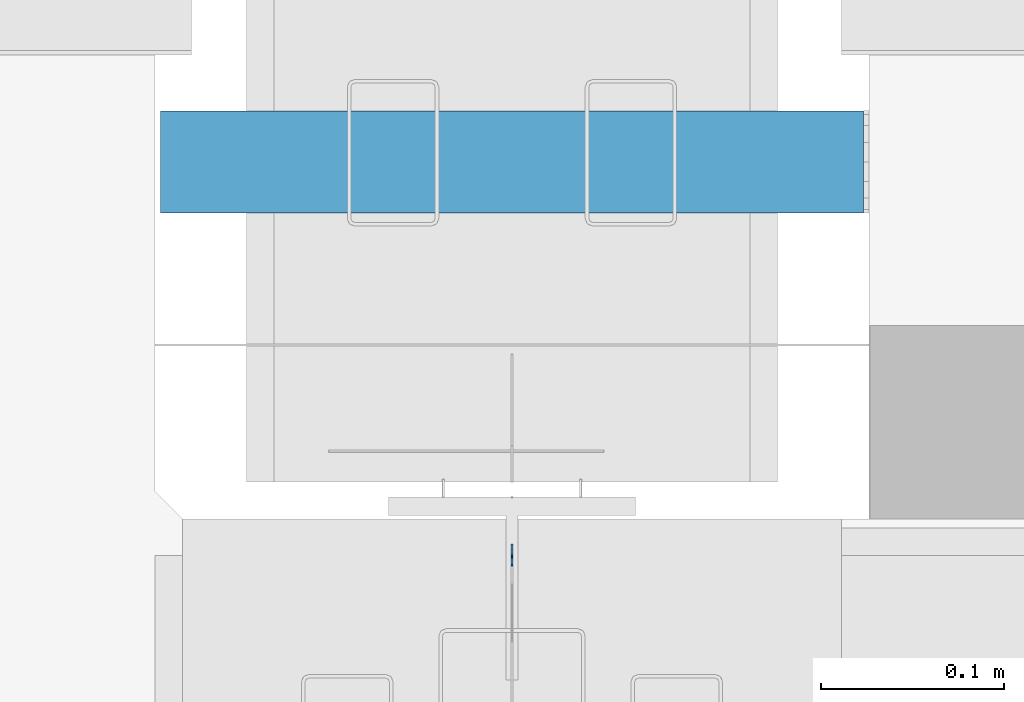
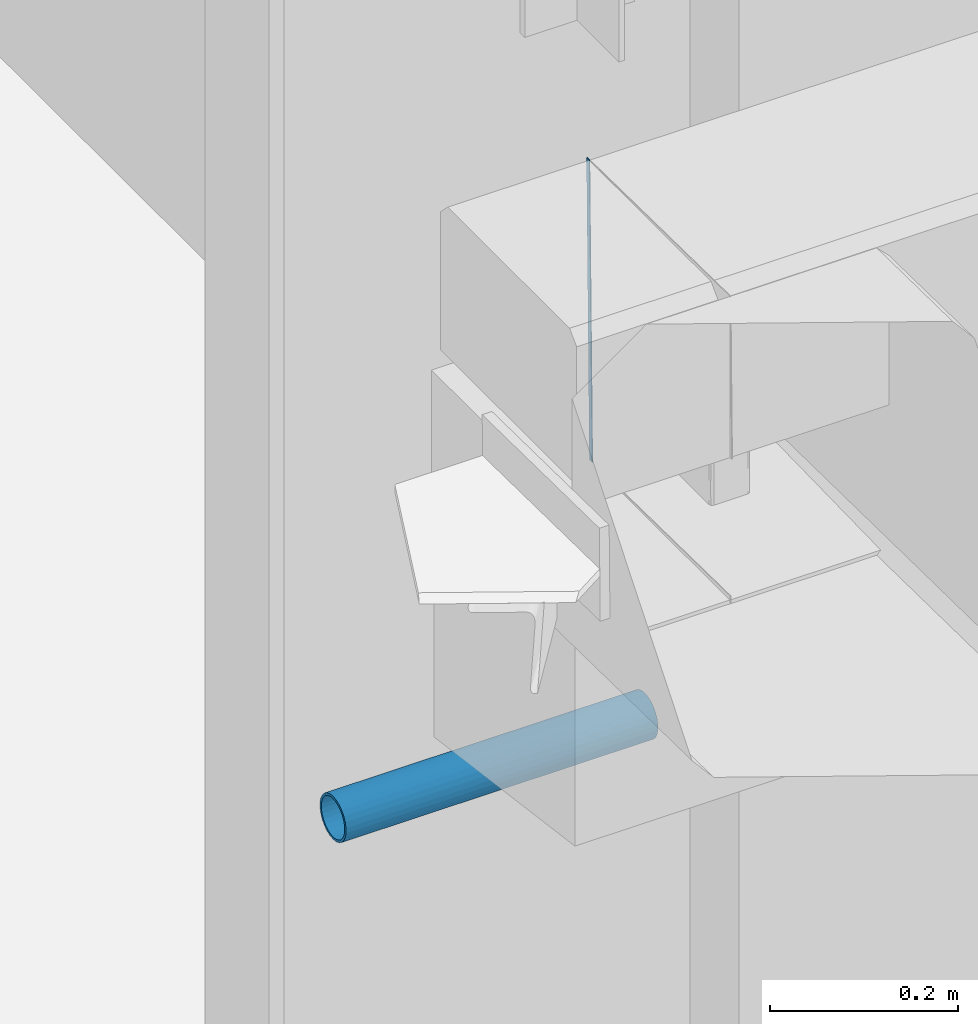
# One storey, part 30 of 186: 2 beams.
"""IFC4X3_ADD2 building model written with IfcOpenShell, lengths in millimetres."""

from ifc_helpers import new_model, si_unit, direction, frame, frame_2d, origin_with_axes, place, context, subcontext, project, spatial, rectangle, hollow_circle, extrude, material, element, save


model = new_model("IFC4X3_ADD2")

# Units and contexts
model_context = context("Model", 3, precision=1e-05, world=origin_with_axes(), true_north=direction((0.0, 1.0)))
body_context = subcontext(model_context, "Body", "Model", "MODEL_VIEW")
ifc_project = project(units=[si_unit("LENGTHUNIT", "METRE", prefix="MILLI"), si_unit("AREAUNIT", "SQUARE_METRE"), si_unit("VOLUMEUNIT", "CUBIC_METRE"), si_unit("PLANEANGLEUNIT", "RADIAN"), si_unit("TIMEUNIT", "SECOND"), si_unit("MASSUNIT", "GRAM")], contexts=[model_context])

# Site, building, storey
site_placement = place(None, origin_with_axes())
site = spatial("IfcSite", under=ifc_project, at=site_placement, Name="Site", CompositionType="ELEMENT")
building_placement = place(site_placement, origin_with_axes())
building = spatial("IfcBuilding", under=site, at=building_placement, Name="IFC Building Story")
storey_placement = place(building_placement, frame((0.0, 0.0, 4370.0), z_axis=(0.0, 0.0, 1.0), x_axis=(1.0, 0.0, 0.0)))
storey = spatial("IfcBuildingStorey", under=building, at=storey_placement, Name="ETAGE 10 (1)", Elevation=4370.0)

# Beams
ifc_material_1 = material(Name="STEEL/Accessory_invisible 261")
beam_1_placement = place(storey_placement, frame((39966.6890210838, -19.85210736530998, 2954.973321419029), z_axis=(-1.0, 0.0, 0.0), x_axis=(0.0, 0.01549790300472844, 0.9998799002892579)))
element("IfcBeam", 1, at=beam_1_placement, inside=storey, material=ifc_material_1, Name="BEK4", ObjectType="6*1 4", context=body_context, shape_type="SweptSolid", body=[
    extrude(rectangle(XDim=390.000000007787, YDim=5.99999999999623, at=frame_2d((0.0, 5.95523630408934e-12), x_axis=(1.0, 0.0))), origin_with_axes(), (0.0, 0.0, 1.0), 1.0),
])
ifc_material_2 = material(Name="STEEL/Accessory_PVC")
beam_2_placement = place(storey_placement, frame((39774.1889999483, 195.0, 2230.88), z_axis=(1.0, 0.0, 0.0), x_axis=(0.0, 0.0, -1.0)))
element("IfcBeam", 2, at=beam_2_placement, inside=storey, material=ifc_material_2, Name="PS13", ObjectType="O56*3", context=body_context, shape_type="SweptSolid", body=[
    extrude(hollow_circle(Radius=28.0, WallThickness=3.0, at=frame_2d((0.0, 5.95523630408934e-12), x_axis=(1.0, 0.0))), origin_with_axes(), (0.0, 0.0, 1.0), 384.0),
])

save(model, "model.ifc")
